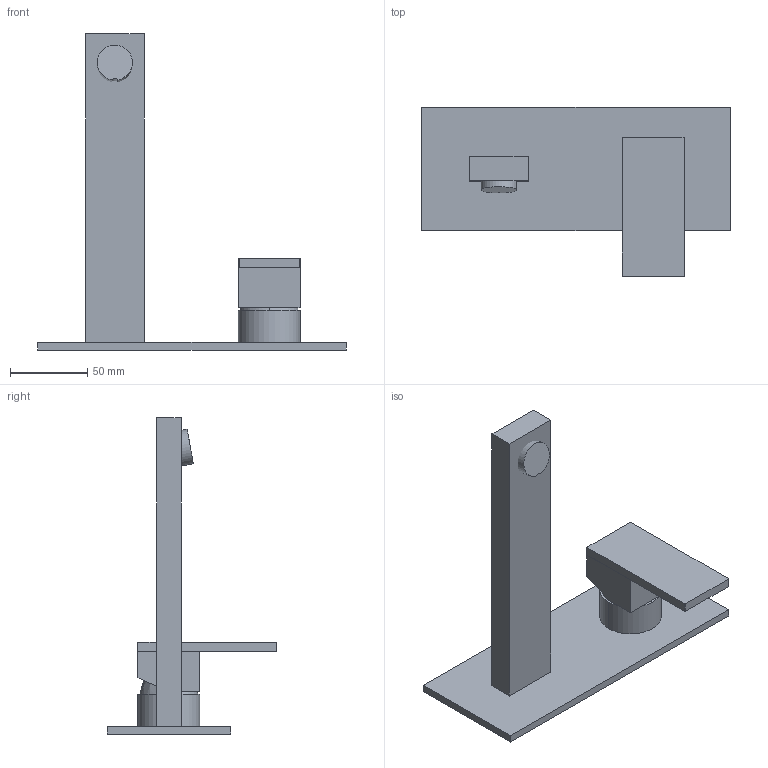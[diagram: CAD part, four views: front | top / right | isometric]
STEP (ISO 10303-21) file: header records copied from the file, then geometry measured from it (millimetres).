
FILE_DESCRIPTION(('FreeCAD Model'),'2;1');
FILE_NAME('Open CASCADE Shape Model','2024-08-08T17:07:28',('Author'),( ''),'Open CASCADE STEP processor 7.6','FreeCAD','Unknown');
FILE_SCHEMA(('AUTOMOTIVE_DESIGN { 1 0 10303 214 1 1 1 1 }'));
Length unit declared in the file: millimetre
Products named in the file (8): TopLevelAssembly; Wyciąganie001; Wyciąganie002; Wyciąganie003; Wyciąganie004; Wyciąganie005; Obrót profilu; Wyciąganie006
Assembly tree (7 placements, depth 2):
  TopLevelAssembly
    Wyciąganie001
    Wyciąganie002
    Wyciąganie003
    Wyciąganie004
    Wyciąganie005
    Obrót profilu
    Wyciąganie006
Bounding box: 200 x 110 x 205 mm (x, y, z)
Volume: 293511.2 mm3; surface area: 82631.7 mm2
Topology: 7 solids, 7 shells, 43 faces, 85 edges, 54 vertices
Faces by surface type: plane 31, cylinder 6, bspline 6
Entity records: 1349 total; most frequent: CARTESIAN_POINT 264, DIRECTION 199, ORIENTED_EDGE 170, EDGE_CURVE 85, AXIS2_PLACEMENT_3D 69, LINE 61, VECTOR 61, VERTEX_POINT 54
